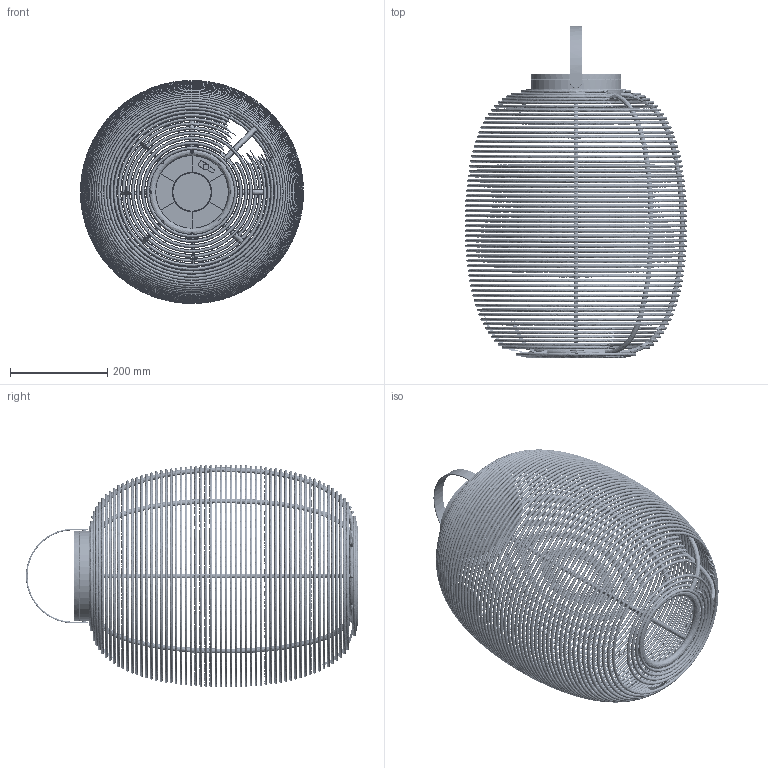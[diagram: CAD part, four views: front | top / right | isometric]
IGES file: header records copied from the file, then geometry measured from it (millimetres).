
Global section: file name: Tika Lantern; native system: unknown; preprocessor: unknown; author: unknown; organization: unknown; date: 20200120.161125; units: millimetre
Bounding box: 457.69 x 681.35 x 457.69 mm (x, y, z)
Volume: 3680463.9 mm3; surface area: 2339046.5 mm2
Topology: 61 solids, 61 shells, 354 faces, 1927 edges, 1528 vertices
Faces by surface type: bspline 342, revolution 12
